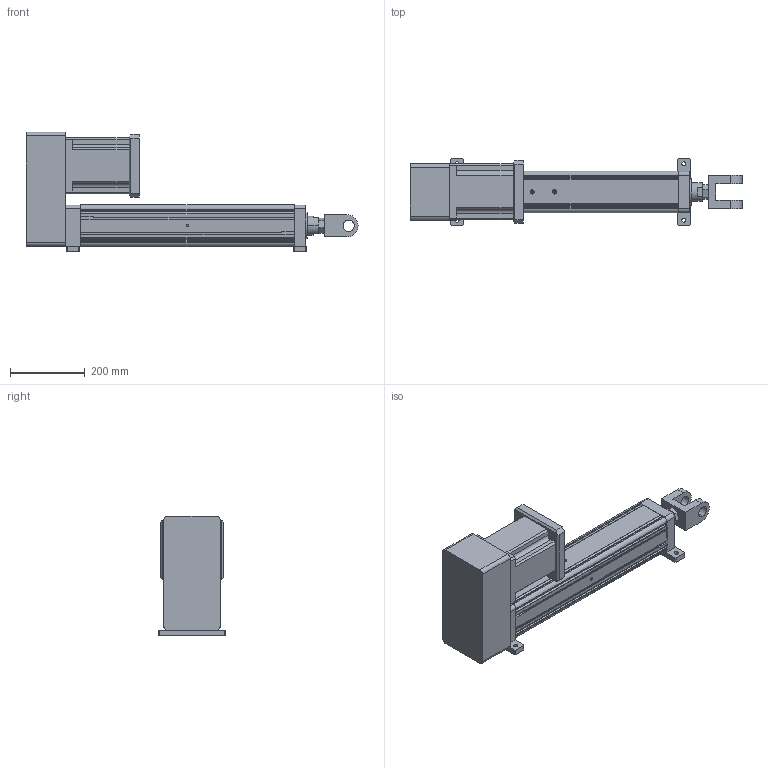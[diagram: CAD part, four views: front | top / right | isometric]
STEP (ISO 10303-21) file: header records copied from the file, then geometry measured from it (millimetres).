
FILE_DESCRIPTION (( 'STEP AP203' ), '1' );
FILE_NAME ('YRJ110-L400-H2K4.STEP', '2020-01-04T06:04:23', ( 'User' ), ( 'China' ), 'SwSTEP 2.0', 'SolidWorks 2016', '' );
FILE_SCHEMA (( 'CONFIG_CONTROL_DESIGN' ));
Length unit declared in the file: millimetre
Products named in the file (7): H2-110-2; 萇儂碟-110; K4-110; H2-110-1; 095-100俴最倰第; 142熬厒儂; YRJ110-L400-H2K4
Assembly tree (6 placements, depth 2):
  YRJ110-L400-H2K4
    095-100俴最倰第
    萇儂碟-110
    142熬厒儂
    K4-110
    H2-110-1
    H2-110-2
Bounding box: 886 x 180 x 320 mm (x, y, z)
Volume: 12578868.7 mm3; surface area: 1038715.3 mm2
Topology: 6 solids, 6 shells, 340 faces, 936 edges, 605 vertices
Faces by surface type: plane 197, cylinder 116, cone 27
Entity records: 11776 total; most frequent: CARTESIAN_POINT 2214, DIRECTION 1843, ORIENTED_EDGE 1840, EDGE_CURVE 920, LINE 651, VECTOR 651, VERTEX_POINT 605, AXIS2_PLACEMENT_3D 596
